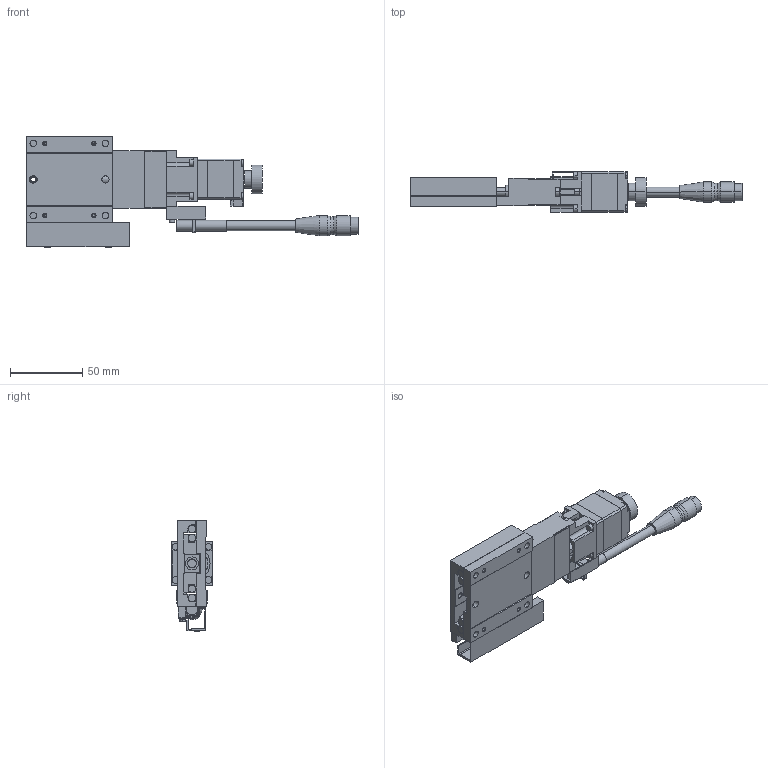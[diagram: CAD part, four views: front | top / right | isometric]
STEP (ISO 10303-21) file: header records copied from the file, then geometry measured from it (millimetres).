
FILE_DESCRIPTION(('STEP AP203'),'1');
FILE_NAME('C:/3D-Trans/3D_PG615T-R□-E4+240116.step','2024-02-26T08:04:22',(' '),(' '),'Spatial InterOp 3D',' ',' ');
FILE_SCHEMA(('CONFIG_CONTROL_DESIGN'));
Length unit declared in the file: millimetre
Products named in the file (6): 1; 2; 3; 4; 5; 6
Bounding box: 230 x 28 x 77.4 mm (x, y, z)
Volume: 119254.3 mm3; surface area: 58887.5 mm2
Topology: 6 solids, 6 shells, 731 faces, 1837 edges, 1169 vertices
Faces by surface type: plane 422, cylinder 238, cone 70, extrusion 1
Entity records: 22276 total; most frequent: CARTESIAN_POINT 4045, DIRECTION 3839, ORIENTED_EDGE 3634, EDGE_CURVE 1817, AXIS2_PLACEMENT_3D 1299, VECTOR 1241, LINE 1240, VERTEX_POINT 1169
